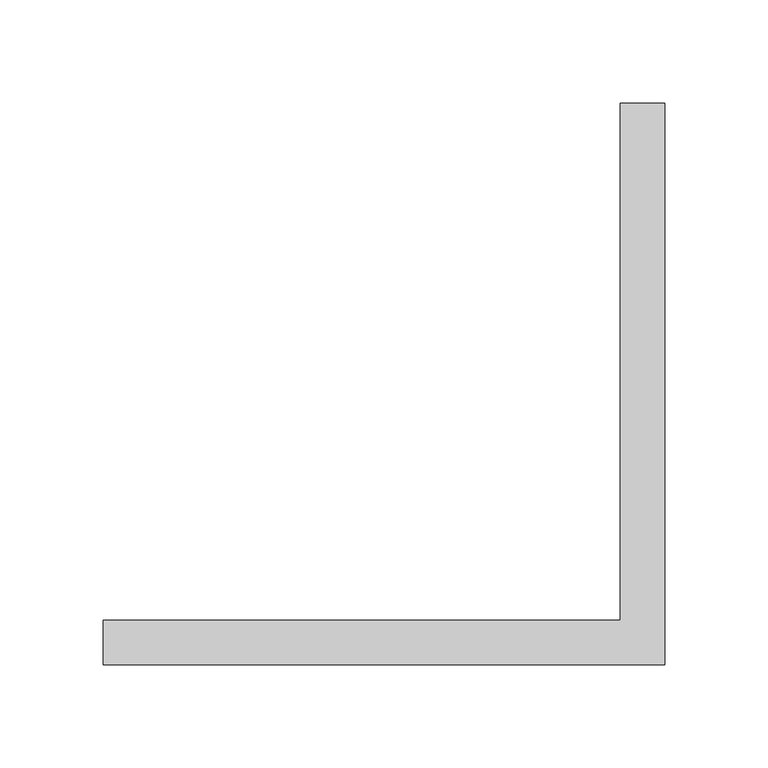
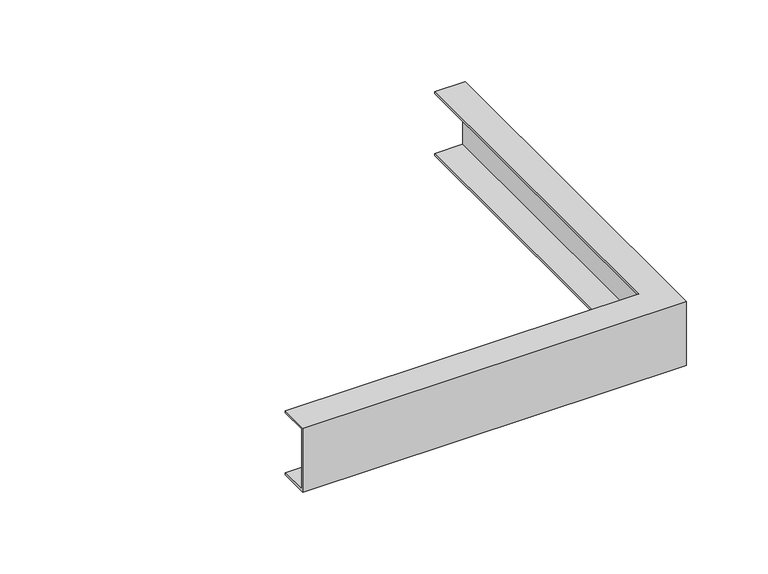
"""IFC4 building model written with IfcOpenShell, lengths in millimetres: cable carrier fitting geometry, BAKS_LD_CONN_Angle connector_LKD : LKDP_H45."""

from ifc_helpers import new_model, si_unit, origin, place, context, project, spatial, faceted_brep, source, transform, mapped, element, save


def cable_carrier_fitting_0282ae3e(model_context):
    return source(origin(), model_context, "Body", "Brep", [
        faceted_brep([(-20.0, 20.0, 24.0), (-20.0, 270.0, 24.0), (-20.0, 270.0, 22.5), (-20.0, 20.0, 22.5), (-20.0, 20.0, -22.5), (-20.0, 270.0, -22.5), (-20.0, 270.0, -24.0), (-20.0, 20.0, -24.0), (-270.0, 20.0, 24.0), (-270.0, -1.5, 24.0), (1.5, -1.5, 24.0), (1.5, 270.0, 24.0), (-270.0, 20.0, 22.5), (0.0, 270.0, 22.5), (0.0, 0.0, 22.5), (-270.0, 0.0, 22.5), (-270.0, 0.0, -22.5), (-270.0, 20.0, -22.5), (-270.0, 20.0, -24.0), (-270.0, -1.5, -24.0), (1.5, 270.0, -24.0), (0.0, 270.0, -22.5), (1.5, -1.5, -24.0), (0.0, 0.0, -22.5)], [[[0, 1, 2, 3]], [[4, 5, 6, 7]], [[0, 8, 9, 10, 11, 1]], [[12, 3, 2, 13, 14, 15]], [[12, 15, 16, 17, 18, 19, 9, 8]], [[8, 0, 3, 12]], [[11, 20, 6, 5, 21, 13, 2, 1]], [[20, 11, 10, 22]], [[6, 20, 22, 19, 18, 7]], [[23, 14, 13, 21]], [[22, 10, 9, 19]], [[15, 14, 23, 16]], [[4, 17, 16, 23, 21, 5]], [[17, 4, 7, 18]]]),
    ])


if __name__ == "__main__":
    model = new_model("IFC4")
    model_context = context("Model", 3, world=origin())
    ifc_project = project(units=[si_unit("LENGTHUNIT", "METRE", prefix="MILLI")], contexts=[model_context])
    site = spatial("IfcSite", under=ifc_project)
    building = spatial("IfcBuilding", under=site)
    placement = place(None, origin())
    cable_carrier_fitting_shape = cable_carrier_fitting_0282ae3e(model_context)
    element("IfcCableCarrierFitting", 1, ObjectType="BAKS_LD_CONN_Angle connector_LKD : LKDP_H45", at=placement, inside=building, context=model_context, shape_type="MappedRepresentation", body=[
        mapped(cable_carrier_fitting_shape, transform((0.0, 0.0, 0.0), x_axis=(1.0, 0.0, 0.0), y_axis=(0.0, 1.0, 0.0), z_axis=(0.0, 0.0, 1.0))),
    ])
    save(model, "model.ifc")
